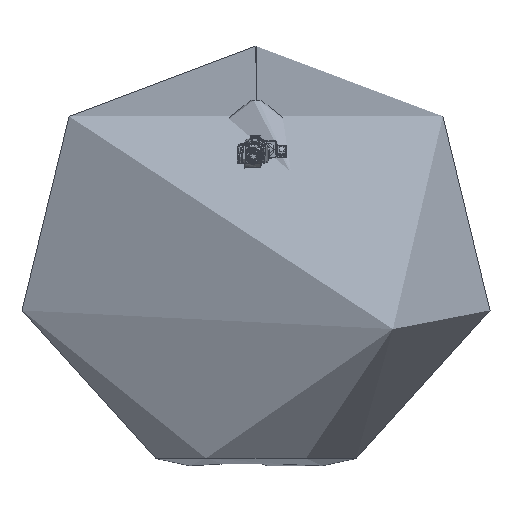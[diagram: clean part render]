
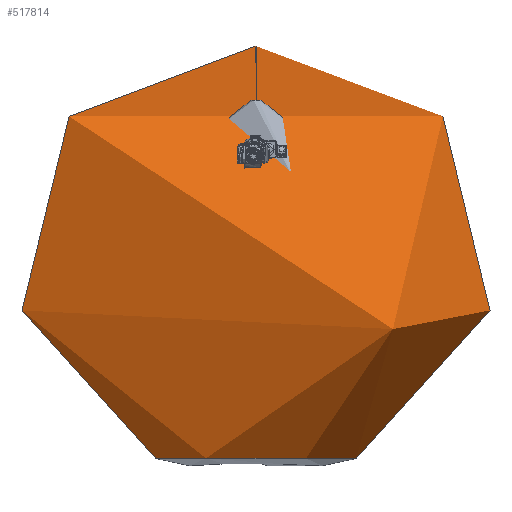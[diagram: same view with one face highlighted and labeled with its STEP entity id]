
A CAD part, top view. The second image highlights one B-rep face of the part: STEP entity #517814.
In plain terms, the highlighted free-form (B-spline) face has degree [3, 3] with [4, 4] control points.
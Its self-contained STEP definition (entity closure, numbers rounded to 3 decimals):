
#13717 = CARTESIAN_POINT ( 'NONE',  ( 0., 2040.258, -2166.693 ) ) ;
#45801 = EDGE_CURVE ( 'NONE', #508416, #418942, #93934, .T. ) ;
#59997 = CARTESIAN_POINT ( 'NONE',  ( -5363.398, -82.437, -2681.699 ) ) ;
#82319 = AXIS2_PLACEMENT_3D ( 'NONE', #274752, #406427, #441914 ) ;
#89966 = CARTESIAN_POINT ( 'NONE',  ( 0., -829.504, 629.15 ) ) ;
#93934 = CIRCLE ( 'NONE', #163203, 1342.465 ) ;
#99120 = CARTESIAN_POINT ( 'NONE',  ( -5363.398, -82.437, 2681.699 ) ) ;
#141889 = CARTESIAN_POINT ( 'NONE',  ( -4333.386, 2040.258, -2166.693 ) ) ;
#145992 = EDGE_CURVE ( 'NONE', #237660, #418942, #217890, .T. ) ;
#163203 = AXIS2_PLACEMENT_3D ( 'NONE', #410951, #459134, #205012 ) ;
#182723 = CARTESIAN_POINT ( 'NONE',  ( 0., -82.437, 2681.699 ) ) ;
#205012 = DIRECTION ( 'NONE',  ( 0., 0., 1. ) ) ;
#217890 = CIRCLE ( 'NONE', #82319, 1342.465 ) ;
#229133 = CARTESIAN_POINT ( 'NONE',  ( 0., 1763.657, 0. ) ) ;
#237660 = VERTEX_POINT ( 'NONE', #383620 ) ;
#260736 = CARTESIAN_POINT ( 'NONE',  ( 0., -829.504, -629.15 ) ) ;
#263191 = DIRECTION ( 'NONE',  ( 0., 1., 0. ) ) ;
#265645 = CIRCLE ( 'NONE', #311083, 629.15 ) ;
#268028 = CARTESIAN_POINT ( 'NONE',  ( 0., 2040.258, 2166.693 ) ) ;
#274752 = CARTESIAN_POINT ( 'NONE',  ( 0., 432., -170. ) ) ;
#299725 = ORIENTED_EDGE ( 'NONE', *, *, #45801, .T. ) ;
#311083 = AXIS2_PLACEMENT_3D ( 'NONE', #344821, #263191, #512005 ) ;
#311451 = ORIENTED_EDGE ( 'NONE', *, *, #397258, .T. ) ;
#312457 = CARTESIAN_POINT ( 'NONE',  ( 0., 1763.657, 0. ) ) ;
#332970 = CARTESIAN_POINT ( 'NONE',  ( 0., -829.504, 629.15 ) ) ;
#344821 = CARTESIAN_POINT ( 'NONE',  ( 0., -829.504, 0. ) ) ;
#345927 = CARTESIAN_POINT ( 'NONE',  ( 0., 1763.657, 0. ) ) ;
#351571 = CARTESIAN_POINT ( 'NONE',  ( 0., 1763.657, 0. ) ) ;
#355257 = CARTESIAN_POINT ( 'NONE',  ( 0., 1763.657, 0. ) ) ;
#368972 = FACE_OUTER_BOUND ( 'NONE', #381745, .T. ) ;
#381745 = EDGE_LOOP ( 'NONE', ( #311451, #299725, #469214 ) ) ;
#383620 = CARTESIAN_POINT ( 'NONE',  ( 0., -829.504, -629.15 ) ) ;
#397258 = EDGE_CURVE ( 'NONE', #237660, #508416, #265645, .T. ) ;
#406427 = DIRECTION ( 'NONE',  ( 1., 0., 0. ) ) ;
#410951 = CARTESIAN_POINT ( 'NONE',  ( 0., 432., 170. ) ) ;
#417683 =( BOUNDED_SURFACE ( )  B_SPLINE_SURFACE ( 3, 3, ( 
 ( #89966, #429681, #472315, #260736 ),
 ( #182723, #99120, #59997, #524190 ),
 ( #268028, #479650, #141889, #13717 ),
 ( #229133, #351571, #312457, #355257 ) ),
 .UNSPECIFIED., .F., .F., .F. ) 
 B_SPLINE_SURFACE_WITH_KNOTS ( ( 4, 4 ),
 ( 4, 4 ),
 ( 0., 1. ),
 ( 0., 1. ),
 .UNSPECIFIED. ) 
 GEOMETRIC_REPRESENTATION_ITEM ( )  RATIONAL_B_SPLINE_SURFACE ( (
 ( 1., 0.333, 0.333, 1.),
 ( 0.407, 0.136, 0.136, 0.407),
 ( 0.407, 0.136, 0.136, 0.407),
 ( 1., 0.333, 0.333, 1.) ) ) 
 REPRESENTATION_ITEM ( '' )  SURFACE ( )  );
#418942 = VERTEX_POINT ( 'NONE', #345927 ) ;
#429681 = CARTESIAN_POINT ( 'NONE',  ( -1258.3, -829.504, 629.15 ) ) ;
#441914 = DIRECTION ( 'NONE',  ( 0., 0., -1. ) ) ;
#459134 = DIRECTION ( 'NONE',  ( -1., 0., 0. ) ) ;
#469214 = ORIENTED_EDGE ( 'NONE', *, *, #145992, .F. ) ;
#472315 = CARTESIAN_POINT ( 'NONE',  ( -1258.3, -829.504, -629.15 ) ) ;
#479650 = CARTESIAN_POINT ( 'NONE',  ( -4333.386, 2040.258, 2166.693 ) ) ;
#508416 = VERTEX_POINT ( 'NONE', #332970 ) ;
#512005 = DIRECTION ( 'NONE',  ( 0., 0., -1. ) ) ;
#517814 = ADVANCED_FACE ( 'NONE', ( #368972 ), #417683, .T. ) ;
#524190 = CARTESIAN_POINT ( 'NONE',  ( 0., -82.437, -2681.699 ) ) ;
